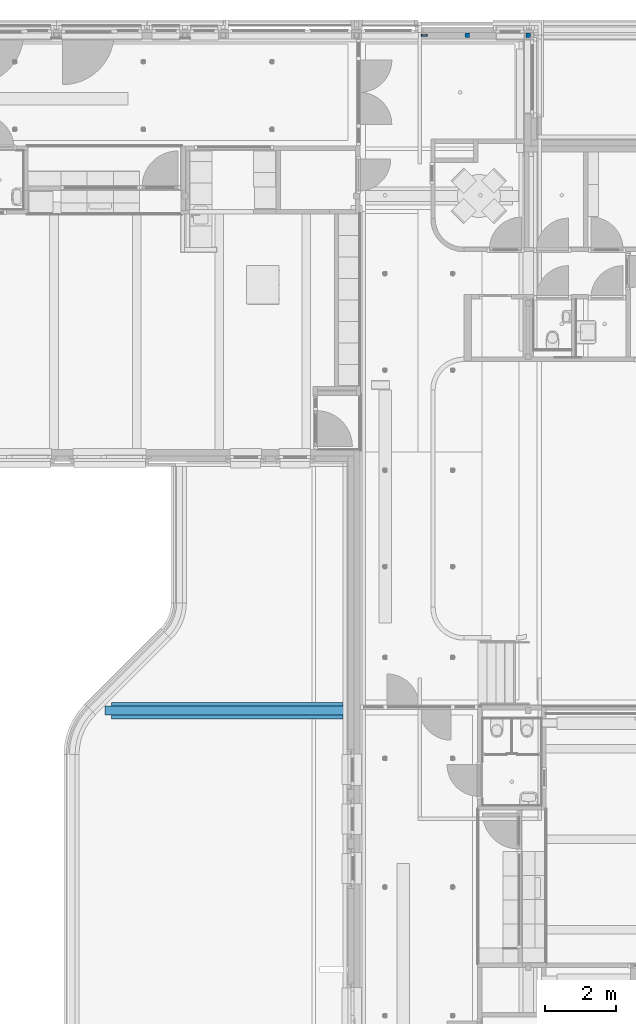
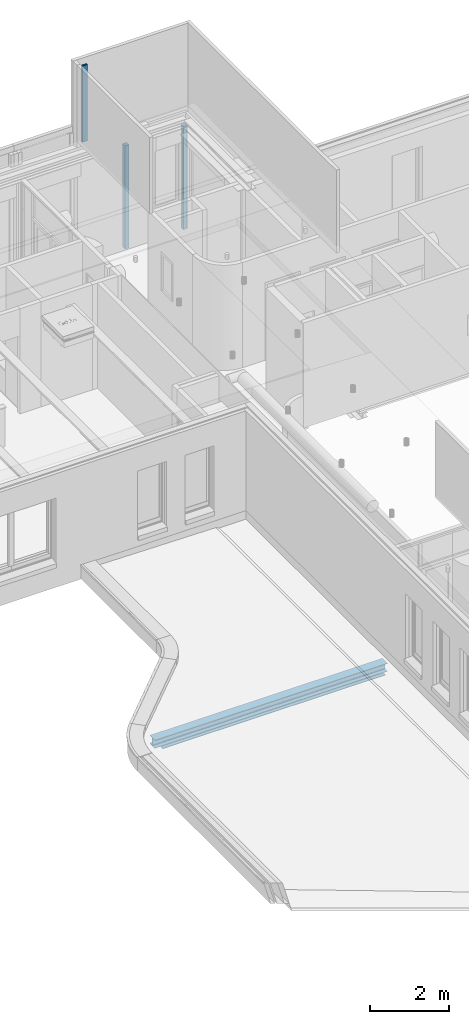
# One storey, part 5 of 128: 3 columns, 1 beam.
"""IFC2X3 building model written with IfcOpenShell, lengths in millimetres."""

from ifc_helpers import new_model, entity, si_unit, converted_unit, derived_unit, direction, frame, frame_2d, origin, place, context, subcontext, project, spatial, polyline, circle_curve, parameter, trimmed, segment, composite_curve, rectangle, outline, extrude, source, transform, mapped, material, material_list, type_object, type_shapes, element, save


model = new_model("IFC2X3")

# Units and contexts
model_context = context("Model", 3, precision=0.01, world=origin(), true_north=direction((6.123031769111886e-17, 1.0)))
body_context = subcontext(model_context, "Body", "Model", "MODEL_VIEW")
ifc_project = project(units=[si_unit("LENGTHUNIT", "METRE", prefix="MILLI"), si_unit("AREAUNIT", "SQUARE_METRE"), si_unit("VOLUMEUNIT", "CUBIC_METRE"), converted_unit("PLANEANGLEUNIT", "DEGREE", entity("IfcRatioMeasure", 0.017453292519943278), si_unit("PLANEANGLEUNIT", "RADIAN"), dimensions=[0, 0, 0, 0, 0, 0, 0]), si_unit("MASSUNIT", "GRAM", prefix="KILO"), derived_unit("MASSDENSITYUNIT", [(si_unit("MASSUNIT", "GRAM", prefix="KILO"), 1), (si_unit("LENGTHUNIT", "METRE"), -3)]), derived_unit("IONCONCENTRATIONUNIT", [(si_unit("MASSUNIT", "GRAM", prefix="KILO"), 1), (si_unit("LENGTHUNIT", "METRE"), -3)]), derived_unit("MOMENTOFINERTIAUNIT", [(si_unit("LENGTHUNIT", "METRE"), 4)]), si_unit("TIMEUNIT", "SECOND"), si_unit("FREQUENCYUNIT", "HERTZ"), si_unit("THERMODYNAMICTEMPERATUREUNIT", "DEGREE_CELSIUS"), derived_unit("THERMALTRANSMITTANCEUNIT", [(si_unit("MASSUNIT", "GRAM", prefix="KILO"), 1), (si_unit("THERMODYNAMICTEMPERATUREUNIT", "KELVIN"), -1), (si_unit("TIMEUNIT", "SECOND"), -3)]), derived_unit("THERMALCONDUCTANCEUNIT", [(si_unit("MASSUNIT", "GRAM", prefix="KILO"), 1), (si_unit("THERMODYNAMICTEMPERATUREUNIT", "KELVIN"), -1), (si_unit("TIMEUNIT", "SECOND"), -3), (si_unit("LENGTHUNIT", "METRE"), 1)]), derived_unit("VOLUMETRICFLOWRATEUNIT", [(si_unit("LENGTHUNIT", "METRE"), 3), (si_unit("TIMEUNIT", "SECOND"), -1)]), derived_unit("MASSFLOWRATEUNIT", [(si_unit("MASSUNIT", "GRAM", prefix="KILO"), 1), (si_unit("TIMEUNIT", "SECOND"), -1)]), derived_unit("ROTATIONALFREQUENCYUNIT", [(si_unit("TIMEUNIT", "SECOND"), -1)]), si_unit("ELECTRICCURRENTUNIT", "AMPERE"), si_unit("ELECTRICVOLTAGEUNIT", "VOLT"), si_unit("POWERUNIT", "WATT"), si_unit("FORCEUNIT", "NEWTON", prefix="KILO"), si_unit("ILLUMINANCEUNIT", "LUX"), si_unit("LUMINOUSFLUXUNIT", "LUMEN"), si_unit("LUMINOUSINTENSITYUNIT", "CANDELA"), derived_unit("USERDEFINED", [(si_unit("MASSUNIT", "GRAM", prefix="KILO"), -1), (si_unit("LENGTHUNIT", "METRE"), -2), (si_unit("TIMEUNIT", "SECOND"), 3), (si_unit("LUMINOUSFLUXUNIT", "LUMEN"), 1)]), derived_unit("USERDEFINED", [(si_unit("MASSUNIT", "GRAM", prefix="KILO"), 1), (si_unit("TIMEUNIT", "SECOND"), -3), (si_unit("LENGTHUNIT", "METRE"), 3), (si_unit("ELECTRICCURRENTUNIT", "AMPERE"), -2)]), derived_unit("SOUNDPOWERUNIT", [(si_unit("MASSUNIT", "GRAM", prefix="KILO"), 1), (si_unit("TIMEUNIT", "SECOND"), -3), (si_unit("LENGTHUNIT", "METRE"), 2)]), derived_unit("SOUNDPRESSUREUNIT", [(si_unit("MASSUNIT", "GRAM", prefix="KILO"), 1), (si_unit("LENGTHUNIT", "METRE"), -1), (si_unit("TIMEUNIT", "SECOND"), -2)]), derived_unit("LINEARVELOCITYUNIT", [(si_unit("LENGTHUNIT", "METRE"), 1), (si_unit("TIMEUNIT", "SECOND"), -1)]), si_unit("PRESSUREUNIT", "PASCAL"), derived_unit("USERDEFINED", [(si_unit("MASSUNIT", "GRAM", prefix="KILO"), 1), (si_unit("LENGTHUNIT", "METRE"), -2), (si_unit("TIMEUNIT", "SECOND"), -2)]), derived_unit("LINEARFORCEUNIT", [(si_unit("MASSUNIT", "GRAM", prefix="KILO"), 1), (si_unit("TIMEUNIT", "SECOND"), -2)]), derived_unit("PLANARFORCEUNIT", [(si_unit("MASSUNIT", "GRAM", prefix="KILO"), 1), (si_unit("LENGTHUNIT", "METRE"), -1), (si_unit("TIMEUNIT", "SECOND"), -2)]), derived_unit("SPECIFICHEATCAPACITYUNIT", [(si_unit("THERMODYNAMICTEMPERATUREUNIT", "KELVIN"), -1), (si_unit("LENGTHUNIT", "METRE"), 2), (si_unit("TIMEUNIT", "SECOND"), -2)]), derived_unit("HEATINGVALUEUNIT", [(si_unit("LENGTHUNIT", "METRE"), 2), (si_unit("TIMEUNIT", "SECOND"), -2)]), derived_unit("VAPORPERMEABILITYUNIT", [(si_unit("LENGTHUNIT", "METRE"), -1), (si_unit("TIMEUNIT", "SECOND"), 1)]), derived_unit("DYNAMICVISCOSITYUNIT", [(si_unit("MASSUNIT", "GRAM", prefix="KILO"), 1), (si_unit("TIMEUNIT", "SECOND"), -1), (si_unit("LENGTHUNIT", "METRE"), -1)]), derived_unit("THERMALEXPANSIONCOEFFICIENTUNIT", [(si_unit("THERMODYNAMICTEMPERATUREUNIT", "KELVIN"), -1)]), derived_unit("MODULUSOFELASTICITYUNIT", [(si_unit("MASSUNIT", "GRAM", prefix="KILO"), 1), (si_unit("LENGTHUNIT", "METRE"), -1), (si_unit("TIMEUNIT", "SECOND"), -2)]), derived_unit("ISOTHERMALMOISTURECAPACITYUNIT", [(si_unit("LENGTHUNIT", "METRE"), 3), (si_unit("MASSUNIT", "GRAM", prefix="KILO"), -1)]), derived_unit("MOISTUREDIFFUSIVITYUNIT", [(si_unit("TIMEUNIT", "SECOND"), -1), (si_unit("LENGTHUNIT", "METRE"), 2)])], contexts=[model_context])

# Site, building, storey
site_placement = place(None, frame((0.0, 300.0, 0.0)))
site = spatial("IfcSite", under=ifc_project, at=site_placement, Name="<Kadastrale nummers>", CompositionType="ELEMENT")
building_placement = place(site_placement, origin())
building = spatial("IfcBuilding", under=site, at=building_placement, CompositionType="ELEMENT")
storey_placement = place(building_placement, frame((0.0, 0.0, 3560.0000331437)))
storey = spatial("IfcBuildingStorey", under=building, at=storey_placement, Name="01 eerste verdieping", CompositionType="ELEMENT", Elevation=3560.0000331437)

# Columns
ifc_material_1 = material(Name="f2_beton")
ifc_material_2 = material(Name="h2_staal")
ifc_material_list_1 = material_list([ifc_material_1, ifc_material_2])
column_type_1 = type_object("IfcColumnType", Name="NLRS_28_SCO_TLB_kolom koker betongevuld_gen_ASN:kolom betongevuld K120x120x5", PredefinedType="COLUMN", material=ifc_material_list_1)
shared_shape_1 = source(origin(), body_context, "Body", "SweptSolid", [
    extrude(outline(composite_curve([segment(polyline([(-50.0, -55.0), (50.0, -55.0)]), True, "CONTINUOUS"), segment(trimmed(circle_curve(frame_2d((50.0, -50.0), x_axis=(-1.0, 0.0)), 4.999999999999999), [parameter(90.00000000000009)], [parameter(179.9999999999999)], True, "PARAMETER"), True, "CONTINUOUS"), segment(polyline([(55.0, -50.0), (55.0, 50.0)]), True, "CONTINUOUS"), segment(trimmed(circle_curve(frame_2d((50.0, 50.0), x_axis=(-1.0, 0.0)), 4.999999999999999), [parameter(180.0000000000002)], [parameter(269.9999999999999)], True, "PARAMETER"), True, "CONTINUOUS"), segment(polyline([(50.0, 55.0), (-50.0, 55.0)]), True, "CONTINUOUS"), segment(trimmed(circle_curve(frame_2d((-50.0, 50.0), x_axis=(-1.0, 0.0)), 4.999999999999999), [parameter(269.99999999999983)], [parameter(359.9999999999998)], True, "PARAMETER"), True, "CONTINUOUS"), segment(polyline([(-55.0, 50.0), (-55.0, -50.0)]), True, "CONTINUOUS"), segment(trimmed(circle_curve(frame_2d((-50.0, -50.0), x_axis=(-1.0, 0.0)), 4.999999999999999), [parameter(0.0)], [parameter(89.99999999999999)], True, "PARAMETER"), True, "CONTINUOUS")], self_intersect=False)), frame((0.0, 0.0, 3650.0000350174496), z_axis=(0.0, 0.0, 1.0), x_axis=(-1.0, 0.0, 0.0)), (0.0, 0.0, 1.0), 3180.00002051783),
    extrude(outline(composite_curve([segment(trimmed(circle_curve(frame_2d((51.0, 51.0), x_axis=(1.0, 0.0)), 9.0), [parameter(359.9999999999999)], [parameter(89.99999999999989)], True, "PARAMETER"), True, "CONTINUOUS"), segment(polyline([(51.0, 60.0), (-51.0, 60.0)]), True, "CONTINUOUS"), segment(trimmed(circle_curve(frame_2d((-51.0, 51.0), x_axis=(1.0, 0.0)), 9.0), [parameter(90.00000000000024)], [parameter(180.0000000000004)], True, "PARAMETER"), True, "CONTINUOUS"), segment(polyline([(-60.0, 51.0), (-60.0, -51.0)]), True, "CONTINUOUS"), segment(trimmed(circle_curve(frame_2d((-51.0, -51.0), x_axis=(1.0, 0.0)), 9.0), [parameter(179.99999999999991)], [parameter(269.9999999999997)], True, "PARAMETER"), True, "CONTINUOUS"), segment(polyline([(-51.0, -60.0), (51.0, -60.0)]), True, "CONTINUOUS"), segment(trimmed(circle_curve(frame_2d((51.0, -51.0), x_axis=(1.0, 0.0)), 9.0), [parameter(270.00000000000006)], [parameter(2.544443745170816e-13)], True, "PARAMETER"), True, "CONTINUOUS"), segment(polyline([(60.0, -51.0), (60.0, 51.0)]), True, "CONTINUOUS")], self_intersect=False), holes=[composite_curve([segment(polyline([(-51.0, 55.0), (51.0, 55.0)]), True, "CONTINUOUS"), segment(trimmed(circle_curve(frame_2d((51.0, 51.0), x_axis=(1.0, 0.0)), 4.0), [parameter(359.9999999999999)], [parameter(90.00000000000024)], True, "PARAMETER"), False, "CONTINUOUS"), segment(polyline([(55.0, 51.0), (55.0, -51.0)]), True, "CONTINUOUS"), segment(trimmed(circle_curve(frame_2d((51.0, -51.0), x_axis=(1.0, 0.0)), 4.0), [parameter(269.9999999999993)], [parameter(359.9999999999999)], True, "PARAMETER"), False, "CONTINUOUS"), segment(polyline([(51.0, -55.0), (-51.0, -55.0)]), True, "CONTINUOUS"), segment(trimmed(circle_curve(frame_2d((-51.0, -51.0), x_axis=(1.0, 0.0)), 4.0), [parameter(179.99999999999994)], [parameter(269.99999999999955)], True, "PARAMETER"), False, "CONTINUOUS"), segment(polyline([(-55.0, -51.0), (-55.0, 51.0)]), True, "CONTINUOUS"), segment(trimmed(circle_curve(frame_2d((-51.0, 51.0), x_axis=(1.0, 0.0)), 4.0), [parameter(89.99999999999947)], [parameter(179.9999999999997)], True, "PARAMETER"), False, "CONTINUOUS")], self_intersect=False)]), frame((0.0, 0.0, 3650.0000350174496), z_axis=(0.0, 0.0, 1.0), x_axis=(-1.0, 0.0, 0.0)), (0.0, 0.0, 1.0), 3180.00002051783),
])
type_shapes(column_type_1, [shared_shape_1])
column_1_placement = place(storey_placement, frame((39700.0, 49800.0, -3560.0000331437), z_axis=(0.0, 0.0, 1.0), x_axis=(0.0, -1.0, 0.0)))
element("IfcColumn", 1, at=column_1_placement, inside=storey, type_object=column_type_1, material=ifc_material_list_1, Name="NLRS_28_SCO_TLB_kolom koker betongevuld_gen_ASN:kolom betongevuld K120x120x5", ObjectType="NLRS_28_SCO_TLB_kolom koker betongevuld_gen_ASN:kolom betongevuld K120x120x5", context=body_context, shape_type="MappedRepresentation", body=[
    mapped(shared_shape_1, transform((0.0, 0.0, 0.0), scale=1.0)),
])
column_type_2 = type_object("IfcColumnType", Name="NLRS_28_SCO_TLB_kolom koker betongevuld_gen_ASN:kolom betongevuld K120x120x6.3", PredefinedType="COLUMN", material=ifc_material_list_1)
shared_shape_2 = source(origin(), body_context, "Body", "SweptSolid", [
    extrude(outline(composite_curve([segment(polyline([(-48.700000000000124, -53.69999999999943), (48.69999999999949, -53.69999999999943)]), True, "CONTINUOUS"), segment(trimmed(circle_curve(frame_2d((48.69999999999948, -48.69999999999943), x_axis=(-1.0, 0.0)), 4.999999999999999), [parameter(90.00000000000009)], [parameter(179.9999999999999)], True, "PARAMETER"), True, "CONTINUOUS"), segment(polyline([(53.699999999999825, -48.69999999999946), (53.70000000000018, 48.699999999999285)]), True, "CONTINUOUS"), segment(trimmed(circle_curve(frame_2d((48.70000000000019, 48.69999999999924), x_axis=(-1.0, 0.0)), 4.999999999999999), [parameter(180.0000000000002)], [parameter(269.9999999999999)], True, "PARAMETER"), True, "CONTINUOUS"), segment(polyline([(48.700000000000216, 53.699999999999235), (-48.699999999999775, 53.69999999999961)]), True, "CONTINUOUS"), segment(trimmed(circle_curve(frame_2d((-48.69999999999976, 48.69999999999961), x_axis=(-1.0, 0.0)), 4.999999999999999), [parameter(269.9999999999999)], [parameter(0.0)], True, "PARAMETER"), True, "CONTINUOUS"), segment(polyline([(-53.69999999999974, 48.69999999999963), (-53.700000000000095, -48.69999999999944)]), True, "CONTINUOUS"), segment(trimmed(circle_curve(frame_2d((-48.7000000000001, -48.69999999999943), x_axis=(-1.0, 0.0)), 4.999999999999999), [parameter(0.0)], [parameter(90.00000000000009)], True, "PARAMETER"), True, "CONTINUOUS")], self_intersect=False)), frame((0.0, 0.0, 3650.0000350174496), z_axis=(0.0, 0.0, 1.0), x_axis=(-1.0, 0.0, 0.0)), (0.0, 0.0, 1.0), 3180.00002051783),
    extrude(outline(composite_curve([segment(trimmed(circle_curve(frame_2d((51.0, 51.0), x_axis=(1.0, 0.0)), 9.0), [parameter(359.9999999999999)], [parameter(89.99999999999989)], True, "PARAMETER"), True, "CONTINUOUS"), segment(polyline([(51.0, 60.0), (-51.0, 60.0)]), True, "CONTINUOUS"), segment(trimmed(circle_curve(frame_2d((-51.0, 51.0), x_axis=(1.0, 0.0)), 9.0), [parameter(90.00000000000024)], [parameter(180.0000000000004)], True, "PARAMETER"), True, "CONTINUOUS"), segment(polyline([(-60.0, 51.0), (-60.0, -51.0)]), True, "CONTINUOUS"), segment(trimmed(circle_curve(frame_2d((-51.0, -51.0), x_axis=(1.0, 0.0)), 9.0), [parameter(179.99999999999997)], [parameter(269.9999999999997)], True, "PARAMETER"), True, "CONTINUOUS"), segment(polyline([(-51.0, -60.0), (51.0, -60.0)]), True, "CONTINUOUS"), segment(trimmed(circle_curve(frame_2d((51.0, -51.0), x_axis=(1.0, 0.0)), 9.0), [parameter(270.00000000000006)], [parameter(3.053332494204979e-13)], True, "PARAMETER"), True, "CONTINUOUS"), segment(polyline([(60.0, -51.0), (60.0, 51.0)]), True, "CONTINUOUS")], self_intersect=False), holes=[composite_curve([segment(polyline([(-51.0, 53.699999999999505), (51.0, 53.699999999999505)]), True, "CONTINUOUS"), segment(trimmed(circle_curve(frame_2d((51.0, 51.0), x_axis=(1.0, 0.0)), 2.7000000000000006), [parameter(359.9999999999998)], [parameter(90.00000000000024)], True, "PARAMETER"), False, "CONTINUOUS"), segment(polyline([(53.69999999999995, 51.0), (53.69999999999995, -51.0)]), True, "CONTINUOUS"), segment(trimmed(circle_curve(frame_2d((51.0, -51.0), x_axis=(1.0, 0.0)), 2.7000000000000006), [parameter(269.9999999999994)], [parameter(359.9999999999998)], True, "PARAMETER"), False, "CONTINUOUS"), segment(polyline([(51.0, -53.69999999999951), (-51.0, -53.69999999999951)]), True, "CONTINUOUS"), segment(trimmed(circle_curve(frame_2d((-51.0, -51.0), x_axis=(1.0, 0.0)), 2.7000000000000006), [parameter(180.0)], [parameter(269.9999999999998)], True, "PARAMETER"), False, "CONTINUOUS"), segment(polyline([(-53.699999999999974, -51.0), (-53.699999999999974, 51.0)]), True, "CONTINUOUS"), segment(trimmed(circle_curve(frame_2d((-51.0, 51.0), x_axis=(1.0, 0.0)), 2.7000000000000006), [parameter(89.99999999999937)], [parameter(179.99999999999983)], True, "PARAMETER"), False, "CONTINUOUS")], self_intersect=False)]), frame((0.0, 0.0, 3650.0000350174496), z_axis=(0.0, 0.0, 1.0), x_axis=(-1.0, 0.0, 0.0)), (0.0, 0.0, 1.0), 3180.00002051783),
])
type_shapes(column_type_2, [shared_shape_2])
column_2_placement = place(storey_placement, frame((41400.0, 49800.0, -3560.0000331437), z_axis=(0.0, 0.0, 1.0), x_axis=(0.0, -1.0, 0.0)))
element("IfcColumn", 2, at=column_2_placement, inside=storey, type_object=column_type_2, material=ifc_material_list_1, Name="NLRS_28_SCO_TLB_kolom koker betongevuld_gen_ASN:kolom betongevuld K120x120x6.3", ObjectType="NLRS_28_SCO_TLB_kolom koker betongevuld_gen_ASN:kolom betongevuld K120x120x6.3", context=body_context, shape_type="MappedRepresentation", body=[
    mapped(shared_shape_2, transform((0.0, 0.0, 0.0), scale=1.0)),
])
ifc_material_3 = material(Name="ISR_Staal")
column_type_3 = type_object("IfcColumnType", Name="NLRS_28_SCO_TLB_kolom koker RHS_gen_ASN:kolom K120x60x10", PredefinedType="COLUMN", material=ifc_material_3)
shared_shape_3 = source(origin(), body_context, "Body", "SweptSolid", [
    extrude(outline(composite_curve([segment(trimmed(circle_curve(frame_2d((24.0, 74.0), x_axis=(1.0, 0.0)), 6.0), [parameter(0.0)], [parameter(90.00000000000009)], True, "PARAMETER"), True, "CONTINUOUS"), segment(polyline([(24.0, 80.0), (-24.0, 80.0)]), True, "CONTINUOUS"), segment(trimmed(circle_curve(frame_2d((-24.0, 74.0), x_axis=(1.0, 0.0)), 6.0), [parameter(90.00000000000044)], [parameter(180.0000000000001)], True, "PARAMETER"), True, "CONTINUOUS"), segment(polyline([(-30.0, 74.0), (-30.0, -74.0)]), True, "CONTINUOUS"), segment(trimmed(circle_curve(frame_2d((-24.0, -74.0), x_axis=(1.0, 0.0)), 6.0), [parameter(180.0000000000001)], [parameter(269.9999999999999)], True, "PARAMETER"), True, "CONTINUOUS"), segment(polyline([(-24.0, -80.0), (24.0, -80.0)]), True, "CONTINUOUS"), segment(trimmed(circle_curve(frame_2d((24.0, -74.0), x_axis=(1.0, 0.0)), 6.000000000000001), [parameter(270.0000000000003)], [parameter(5.088887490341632e-13)], True, "PARAMETER"), True, "CONTINUOUS"), segment(polyline([(30.0, -74.0), (30.0, 74.0)]), True, "CONTINUOUS")], self_intersect=False), holes=[composite_curve([segment(polyline([(-17.0, 70.0), (17.0, 70.0)]), True, "CONTINUOUS"), segment(trimmed(circle_curve(frame_2d((17.0, 67.0), x_axis=(1.0, 0.0)), 3.0000000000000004), [parameter(359.99999999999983)], [parameter(90.00000000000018)], True, "PARAMETER"), False, "CONTINUOUS"), segment(polyline([(20.0, 67.0), (20.0, -67.0)]), True, "CONTINUOUS"), segment(trimmed(circle_curve(frame_2d((17.0, -67.0), x_axis=(1.0, 0.0)), 2.9999999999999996), [parameter(269.9999999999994)], [parameter(359.99999999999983)], True, "PARAMETER"), False, "CONTINUOUS"), segment(polyline([(17.0, -70.0), (-17.0, -70.0)]), True, "CONTINUOUS"), segment(trimmed(circle_curve(frame_2d((-17.0, -67.0), x_axis=(1.0, 0.0)), 3.0), [parameter(180.0000000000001)], [parameter(269.9999999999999)], True, "PARAMETER"), False, "CONTINUOUS"), segment(polyline([(-20.0, -67.0), (-20.0, 67.0)]), True, "CONTINUOUS"), segment(trimmed(circle_curve(frame_2d((-17.0, 67.0), x_axis=(1.0, 0.0)), 3.0000000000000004), [parameter(90.00000000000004)], [parameter(180.00000000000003)], True, "PARAMETER"), False, "CONTINUOUS")], self_intersect=False)]), frame((38495.0, 49800.0, 7350.000035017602), z_axis=(0.0, 0.0, 1.0), x_axis=(0.0, -1.0, 0.0)), (0.0, 0.0, 1.0), 2349.9999649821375),
])
type_shapes(column_type_3, [shared_shape_3])
column_3_placement = place(storey_placement, frame((0.0, 0.0, -3560.0000331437)))
element("IfcColumn", 3, at=column_3_placement, inside=storey, type_object=column_type_3, material=ifc_material_3, Name="NLRS_28_SCO_TLB_kolom koker RHS_gen_ASN:kolom K120x60x10", ObjectType="NLRS_28_SCO_TLB_kolom koker RHS_gen_ASN:kolom K120x60x10", context=body_context, shape_type="MappedRepresentation", body=[
    mapped(shared_shape_3, transform((0.0, 0.0, 0.0), scale=1.0)),
])

# Beam
ifc_material_4 = material(Name="<Unnamed>")
ifc_material_list_2 = material_list([ifc_material_4, ifc_material_3])
beam_type = type_object("IfcBeamType", Name="NLRS_28_SF_LIB_balk SFB_gen_ASN:balk HEA260460x15", PredefinedType="BEAM", material=ifc_material_list_2)
shared_shape_4 = source(origin(), body_context, "Body", "SweptSolid", [
    extrude(rectangle(XDim=14.99999999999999, YDim=459.99999999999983, at=frame_2d((8.43769498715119e-15, 0.0), x_axis=(1.0, 0.0))), frame((-3162.5221427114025, 0.0, -113.5000000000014), z_axis=(1.0, 0.0, 0.0), x_axis=(0.0, 0.0, -1.0)), (0.0, 0.0, 1.0), 6487.52571413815),
    extrude(outline(composite_curve([segment(polyline([(112.49999999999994, -130.0), (125.0, -130.0)]), True, "CONTINUOUS"), segment(polyline([(125.0, -130.0), (125.0, 130.0)]), True, "CONTINUOUS"), segment(polyline([(125.0, 130.0), (112.49999999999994, 130.0)]), True, "CONTINUOUS"), segment(polyline([(112.49999999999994, 130.0), (112.49999999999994, 34.499999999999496)]), True, "CONTINUOUS"), segment(trimmed(circle_curve(frame_2d((82.4999999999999, 34.499999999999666), x_axis=(1.0, 0.0)), 30.000000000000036), [parameter(270.0000000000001)], [parameter(0.0)], True, "PARAMETER"), False, "CONTINUOUS"), segment(polyline([(82.49999999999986, 4.499999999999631), (-82.49999999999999, 4.499999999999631)]), True, "CONTINUOUS"), segment(trimmed(circle_curve(frame_2d((-82.4999999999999, 34.49999999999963), x_axis=(0.0, -1.0)), 29.999999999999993), [parameter(269.99999999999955)], [parameter(0.0)], True, "PARAMETER"), False, "CONTINUOUS"), segment(polyline([(-112.49999999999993, 34.49999999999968), (-112.49999999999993, 130.0)]), True, "CONTINUOUS"), segment(polyline([(-112.49999999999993, 130.0), (-125.0, 130.0)]), True, "CONTINUOUS"), segment(polyline([(-125.0, 130.0), (-125.0, -130.0)]), True, "CONTINUOUS"), segment(polyline([(-125.0, -130.0), (-112.49999999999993, -130.0)]), True, "CONTINUOUS"), segment(polyline([(-112.49999999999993, -130.0), (-112.49999999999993, -34.50000000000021)]), True, "CONTINUOUS"), segment(trimmed(circle_curve(frame_2d((-82.49999999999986, -34.50000000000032), x_axis=(-1.0, 0.0)), 30.00000000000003), [parameter(269.99999999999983)], [parameter(0.0)], True, "PARAMETER"), False, "CONTINUOUS"), segment(polyline([(-82.49999999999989, -4.500000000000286), (82.49999999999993, -4.500000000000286)]), True, "CONTINUOUS"), segment(trimmed(circle_curve(frame_2d((82.49999999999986, -34.50000000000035), x_axis=(0.0, 1.0)), 30.00000000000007), [parameter(270.0000000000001)], [parameter(0.0)], True, "PARAMETER"), False, "CONTINUOUS"), segment(polyline([(112.49999999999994, -34.50000000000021), (112.49999999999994, -130.0)]), True, "CONTINUOUS")], self_intersect=False)), frame((-3277.3178571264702, 0.0, 19.0), z_axis=(1.0, 0.0, 0.0), x_axis=(0.0, 0.0, -1.0)), (0.0, 0.0, 1.0), 6777.321428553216),
])
type_shapes(beam_type, [shared_shape_4])
beam_placement = place(storey_placement, frame((33059.98214287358, 30900.0, -154.0), z_axis=(0.0, 0.0, 1.0), x_axis=(-1.0, 0.0, 0.0)))
element("IfcBeam", 4, at=beam_placement, inside=storey, type_object=beam_type, material=ifc_material_3, Name="NLRS_28_SF_LIB_balk SFB_gen_ASN:balk HEA260460x15", ObjectType="NLRS_28_SF_LIB_balk SFB_gen_ASN:balk HEA260460x15", context=body_context, shape_type="MappedRepresentation", body=[
    mapped(shared_shape_4, transform((0.0, 0.0, 0.0), scale=1.0)),
])

save(model, "model.ifc")
